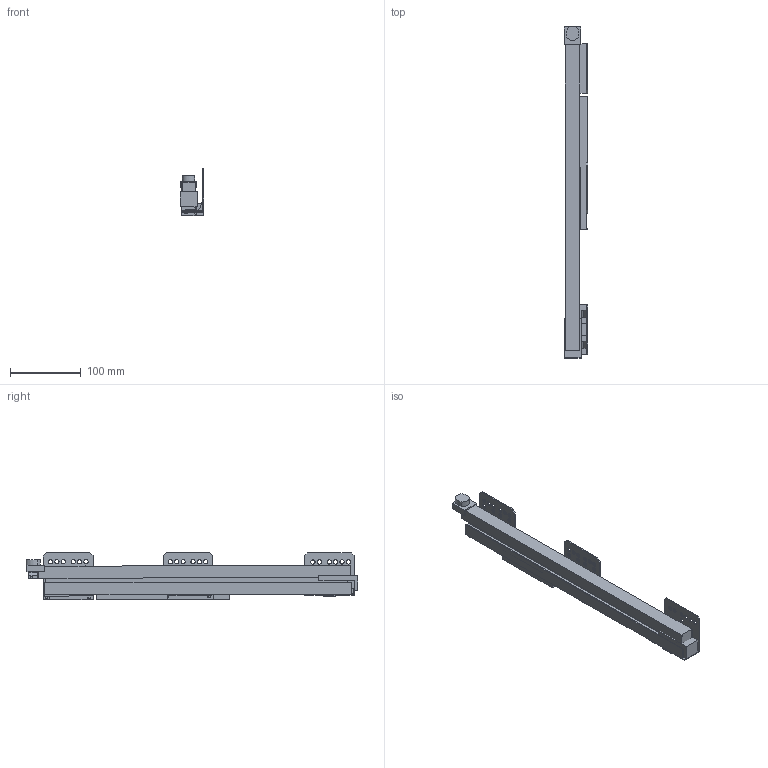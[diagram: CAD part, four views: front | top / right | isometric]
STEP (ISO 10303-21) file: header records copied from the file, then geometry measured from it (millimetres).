
FILE_DESCRIPTION (( 'STEP AP214' ), '1' );
FILE_NAME ('_IMOS Dynamic-XP VA 60kg NL450 RE Tipmatic.step', '2010-07-08T13:27:19', ( 'grass' ), ( '' ), 'SwSTEP 2.0', 'SolidWorks 2010', '' );
FILE_SCHEMA (( 'AUTOMOTIVE_DESIGN' ));
Length unit declared in the file: millimetre
Products named in the file (1): _IMOS Dynamic-XP VA 60kg NL450 RE Tipmatic
Bounding box: 33.14 x 468.02 x 66.67 mm (x, y, z)
Volume: 445002.9 mm3; surface area: 172910.4 mm2
Topology: 9 solids, 9 shells, 238 faces, 652 edges, 434 vertices
Faces by surface type: plane 167, cylinder 71
Entity records: 7758 total; most frequent: CARTESIAN_POINT 1325, ORIENTED_EDGE 1304, DIRECTION 1274, EDGE_CURVE 652, LINE 508, VECTOR 508, VERTEX_POINT 434, AXIS2_PLACEMENT_3D 383
